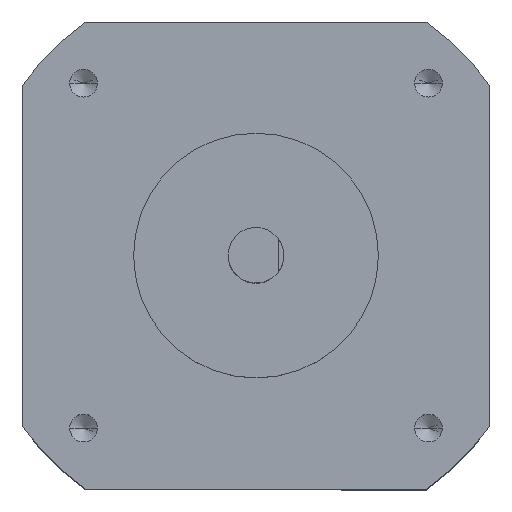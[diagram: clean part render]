
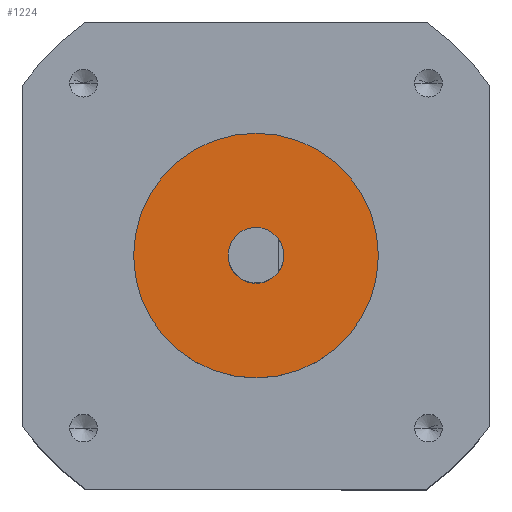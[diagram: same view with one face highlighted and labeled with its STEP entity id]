
A CAD part, top view. The second image highlights one B-rep face of the part: STEP entity #1224.
In plain terms, the highlighted planar face has unit normal (0, 0, 1).
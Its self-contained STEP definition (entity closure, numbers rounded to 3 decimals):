
#70 = EDGE_CURVE ( 'NONE', #2481, #504, #1798, .T. ) ;
#181 = ORIENTED_EDGE ( 'NONE', *, *, #663, .T. ) ;
#345 = CARTESIAN_POINT ( 'NONE',  ( 2.5, 0., 2. ) ) ;
#426 = VERTEX_POINT ( 'NONE', #345 ) ;
#451 = FACE_BOUND ( 'NONE', #1512, .T. ) ;
#504 = VERTEX_POINT ( 'NONE', #828 ) ;
#581 = CARTESIAN_POINT ( 'NONE',  ( 0., 0., 2. ) ) ;
#600 = CARTESIAN_POINT ( 'NONE',  ( -2.5, 0., 2. ) ) ;
#663 = EDGE_CURVE ( 'NONE', #504, #2481, #3264, .T. ) ;
#700 = AXIS2_PLACEMENT_3D ( 'NONE', #1135, #2908, #1390 ) ;
#773 = CARTESIAN_POINT ( 'NONE',  ( 0., 0., 2. ) ) ;
#828 = CARTESIAN_POINT ( 'NONE',  ( -11., 0., 2. ) ) ;
#941 = DIRECTION ( 'NONE',  ( 0., 0., -1. ) ) ;
#1012 = VERTEX_POINT ( 'NONE', #600 ) ;
#1037 = FACE_OUTER_BOUND ( 'NONE', #1531, .T. ) ;
#1040 = DIRECTION ( 'NONE',  ( 1., 0., 0. ) ) ;
#1135 = CARTESIAN_POINT ( 'NONE',  ( 0., 0., 2. ) ) ;
#1182 = DIRECTION ( 'NONE',  ( 0., 0., -1. ) ) ;
#1224 = ADVANCED_FACE ( 'NONE', ( #1037, #451 ), #1348, .T. ) ;
#1245 = ORIENTED_EDGE ( 'NONE', *, *, #2293, .T. ) ;
#1348 = PLANE ( 'NONE',  #2971 ) ;
#1390 = DIRECTION ( 'NONE',  ( 1., 0., 0. ) ) ;
#1512 = EDGE_LOOP ( 'NONE', ( #1245, #2388 ) ) ;
#1531 = EDGE_LOOP ( 'NONE', ( #181, #2626 ) ) ;
#1555 = EDGE_CURVE ( 'NONE', #426, #1012, #3111, .T. ) ;
#1593 = DIRECTION ( 'NONE',  ( 0., 0., 1. ) ) ;
#1798 = CIRCLE ( 'NONE', #700, 11. ) ;
#1899 = CIRCLE ( 'NONE', #2985, 2.5 ) ;
#2290 = CARTESIAN_POINT ( 'NONE',  ( 11., 0., 2. ) ) ;
#2293 = EDGE_CURVE ( 'NONE', #1012, #426, #1899, .T. ) ;
#2360 = DIRECTION ( 'NONE',  ( 1., 0., 0. ) ) ;
#2388 = ORIENTED_EDGE ( 'NONE', *, *, #1555, .T. ) ;
#2458 = CARTESIAN_POINT ( 'NONE',  ( 0., 0., 2. ) ) ;
#2481 = VERTEX_POINT ( 'NONE', #2290 ) ;
#2550 = DIRECTION ( 'NONE',  ( 0., 0., 1. ) ) ;
#2583 = AXIS2_PLACEMENT_3D ( 'NONE', #773, #2550, #1040 ) ;
#2626 = ORIENTED_EDGE ( 'NONE', *, *, #70, .T. ) ;
#2697 = CARTESIAN_POINT ( 'NONE',  ( 0., 0., 2. ) ) ;
#2719 = DIRECTION ( 'NONE',  ( 1., 0., 0. ) ) ;
#2908 = DIRECTION ( 'NONE',  ( 0., 0., 1. ) ) ;
#2951 = AXIS2_PLACEMENT_3D ( 'NONE', #2697, #1182, #2956 ) ;
#2956 = DIRECTION ( 'NONE',  ( 1., 0., 0. ) ) ;
#2971 = AXIS2_PLACEMENT_3D ( 'NONE', #581, #1593, #2360 ) ;
#2985 = AXIS2_PLACEMENT_3D ( 'NONE', #2458, #941, #2719 ) ;
#3111 = CIRCLE ( 'NONE', #2951, 2.5 ) ;
#3264 = CIRCLE ( 'NONE', #2583, 11. ) ;
